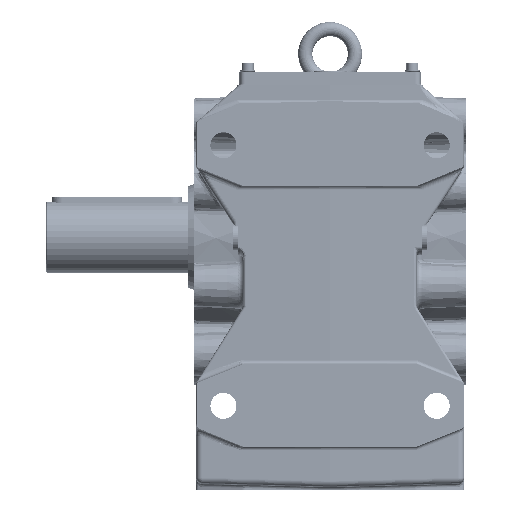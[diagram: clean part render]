
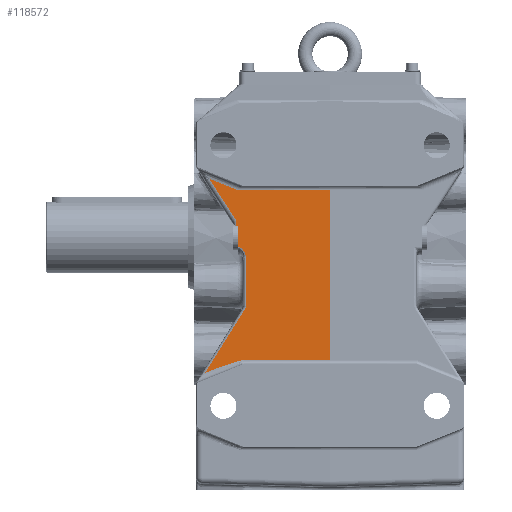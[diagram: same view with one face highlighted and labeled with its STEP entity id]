
A CAD part, left-side view. The second image highlights one B-rep face of the part: STEP entity #118572.
In plain terms, the highlighted planar face has unit normal (-1, 0.026, 0).
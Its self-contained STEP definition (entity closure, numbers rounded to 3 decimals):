
#62508=CARTESIAN_POINT('',(-129.912,0.,40.));
#62509=VERTEX_POINT('',#62508);
#62625=CARTESIAN_POINT('',(-127.847,78.832,40.));
#62626=VERTEX_POINT('',#62625);
#62644=CARTESIAN_POINT('',(-127.847,78.832,40.));
#62645=DIRECTION('',(-0.026,-1.,0.));
#62646=VECTOR('',#62645,78.859);
#62647=LINE('',#62644,#62646);
#62648=EDGE_CURVE('',#62626,#62509,#62647,.T.);
#65176=CARTESIAN_POINT('',(-127.842,79.052,9.208));
#65177=VERTEX_POINT('',#65176);
#65191=CARTESIAN_POINT('',(-127.842,79.052,13.908));
#65192=VERTEX_POINT('',#65191);
#65193=CARTESIAN_POINT('',(-127.842,79.052,13.908));
#65194=DIRECTION('',(0.0,0.0,-1.0));
#65195=VECTOR('',#65194,4.701);
#65196=LINE('',#65193,#65195);
#65197=EDGE_CURVE('',#65192,#65177,#65196,.T.);
#65240=CARTESIAN_POINT('',(-127.149,105.483,-114.66));
#65241=VERTEX_POINT('',#65240);
#65266=CARTESIAN_POINT('',(-128.035,71.66,-60.533));
#65267=VERTEX_POINT('',#65266);
#65268=CARTESIAN_POINT('',(-127.149,105.483,-114.66));
#65269=DIRECTION('',(-0.014,-0.53,0.848));
#65270=VECTOR('',#65269,63.832);
#65271=LINE('',#65268,#65270);
#65272=EDGE_CURVE('',#65241,#65267,#65271,.T.);
#65307=CARTESIAN_POINT('',(-128.051,71.052,-58.413));
#65308=VERTEX_POINT('',#65307);
#65309=CARTESIAN_POINT('',(-127.946,75.052,-58.413));
#65310=DIRECTION('',(-1.,0.026,0.));
#65311=DIRECTION('',(-0.026,-1.,0.));
#65312=AXIS2_PLACEMENT_3D('',#65309,#65310,#65311);
#65313=ELLIPSE('',#65312,4.001,4.0);
#65314=EDGE_CURVE('',#65267,#65308,#65313,.T.);
#65333=CARTESIAN_POINT('',(-128.051,71.052,-17.291));
#65334=VERTEX_POINT('',#65333);
#65335=CARTESIAN_POINT('',(-128.051,71.052,-58.413));
#65336=DIRECTION('',(0.0,0.0,1.0));
#65337=VECTOR('',#65336,41.123);
#65338=LINE('',#65335,#65337);
#65339=EDGE_CURVE('',#65308,#65334,#65338,.T.);
#65916=CARTESIAN_POINT('',(-127.24,102.02,49.275));
#65917=VERTEX_POINT('',#65916);
#65925=CARTESIAN_POINT('',(-127.24,102.02,49.275));
#65926=DIRECTION('',(-0.024,-0.928,-0.371));
#65927=VECTOR('',#65926,24.981);
#65928=LINE('',#65925,#65927);
#65929=EDGE_CURVE('',#65917,#62626,#65928,.T.);
#66061=CARTESIAN_POINT('',(-127.842,79.052,13.908));
#66062=DIRECTION('',(0.014,0.545,0.839));
#66063=VECTOR('',#66062,42.174);
#66064=LINE('',#66061,#66063);
#66065=EDGE_CURVE('',#65192,#65917,#66064,.T.);
#75508=CARTESIAN_POINT('',(-127.454,93.832,-110.));
#75509=VERTEX_POINT('',#75508);
#75519=CARTESIAN_POINT('',(-127.454,93.832,-110.));
#75520=DIRECTION('',(0.024,0.928,-0.371));
#75521=VECTOR('',#75520,12.552);
#75522=LINE('',#75519,#75521);
#75523=EDGE_CURVE('',#75509,#65241,#75522,.T.);
#76314=CARTESIAN_POINT('',(-128.001,72.976,-104.));
#76315=VERTEX_POINT('',#76314);
#76316=CARTESIAN_POINT('',(-128.001,72.976,-104.));
#76317=CARTESIAN_POINT('',(-127.982,73.7,-104.));
#76318=CARTESIAN_POINT('',(-127.944,75.145,-104.177));
#76319=CARTESIAN_POINT('',(-127.888,77.259,-104.671));
#76320=CARTESIAN_POINT('',(-127.834,79.352,-105.254));
#76321=CARTESIAN_POINT('',(-127.779,81.43,-105.884));
#76322=CARTESIAN_POINT('',(-127.725,83.499,-106.541));
#76323=CARTESIAN_POINT('',(-127.653,86.251,-107.44));
#76324=CARTESIAN_POINT('',(-127.563,89.682,-108.59));
#76325=CARTESIAN_POINT('',(-127.491,92.423,-109.521));
#76326=CARTESIAN_POINT('',(-127.455,93.807,-109.991));
#76327=CARTESIAN_POINT('',(-127.455,93.819,-109.996));
#76328=CARTESIAN_POINT('',(-127.454,93.832,-110.));
#76329=B_SPLINE_CURVE_WITH_KNOTS('',3,(#76316,#76317,#76318,#76319,#76320,#76321,#76322,#76323,#76324,#76325,#76326,#76327,#76328),.UNSPECIFIED.,.F.,.U.,(4,1,1,1,1,1,1,1,2,4),(-2.172,-1.955,-1.737,-1.52,-1.303,-1.086,-0.869,-0.434,0.0,0.004),.UNSPECIFIED.);
#76330=EDGE_CURVE('',#76315,#75509,#76329,.T.);
#76359=CARTESIAN_POINT('',(-129.912,0.,-104.));
#76360=VERTEX_POINT('',#76359);
#76385=CARTESIAN_POINT('',(-129.912,0.,-104.));
#76386=DIRECTION('',(0.026,1.,0.));
#76387=VECTOR('',#76386,73.001);
#76388=LINE('',#76385,#76387);
#76389=EDGE_CURVE('',#76360,#76315,#76388,.T.);
#116333=CARTESIAN_POINT('',(-129.912,0.,40.));
#116334=DIRECTION('',(0.0,0.0,-1.0));
#116335=VECTOR('',#116334,144.0);
#116336=LINE('',#116333,#116335);
#116337=EDGE_CURVE('',#62509,#76360,#116336,.T.);
#118508=CARTESIAN_POINT('',(-127.869,78.,-8.461));
#118509=VERTEX_POINT('',#118508);
#118525=CARTESIAN_POINT('',(-128.051,71.052,-17.291));
#118526=CARTESIAN_POINT('',(-128.051,71.052,-15.528));
#118527=CARTESIAN_POINT('',(-128.029,71.882,-12.595));
#118528=CARTESIAN_POINT('',(-127.968,74.203,-9.831));
#118529=CARTESIAN_POINT('',(-127.915,76.261,-8.656));
#118530=CARTESIAN_POINT('',(-127.884,77.43,-8.451));
#118531=CARTESIAN_POINT('',(-127.869,78.,-8.461));
#118532=B_SPLINE_CURVE_WITH_KNOTS('',3,(#118525,#118526,#118527,#118528,#118529,#118530,#118531),.UNSPECIFIED.,.F.,.U.,(4,1,1,1,4),(0.0,0.529,0.881,1.058,1.229),.UNSPECIFIED.);
#118533=EDGE_CURVE('',#65334,#118509,#118532,.T.);
#118538=CARTESIAN_POINT('',(-129.911,0.025,-208.));
#118539=DIRECTION('',(-1.,0.026,0.));
#118540=DIRECTION('',(0.0,0.0,1.0));
#118541=AXIS2_PLACEMENT_3D('',#118538,#118539,#118540);
#118542=PLANE('',#118541);
#118543=CARTESIAN_POINT('',(-127.869,78.,9.172));
#118544=VERTEX_POINT('',#118543);
#118545=CARTESIAN_POINT('',(-116.,531.262,0.));
#118546=DIRECTION('',(1.,-0.026,0.));
#118547=DIRECTION('',(-0.026,-1.,0.));
#118548=AXIS2_PLACEMENT_3D('',#118545,#118546,#118547);
#118549=ELLIPSE('',#118548,573.023,15.);
#118550=EDGE_CURVE('',#65177,#118544,#118549,.T.);
#118551=ORIENTED_EDGE('',*,*,#118550,.T.);
#118552=CARTESIAN_POINT('',(-127.869,78.,9.172));
#118553=DIRECTION('',(0.0,0.0,-1.0));
#118554=VECTOR('',#118553,17.633);
#118555=LINE('',#118552,#118554);
#118556=EDGE_CURVE('',#118544,#118509,#118555,.T.);
#118557=ORIENTED_EDGE('',*,*,#118556,.T.);
#118558=ORIENTED_EDGE('',*,*,#118533,.F.);
#118559=ORIENTED_EDGE('',*,*,#65339,.F.);
#118560=ORIENTED_EDGE('',*,*,#65314,.F.);
#118561=ORIENTED_EDGE('',*,*,#65272,.F.);
#118562=ORIENTED_EDGE('',*,*,#75523,.F.);
#118563=ORIENTED_EDGE('',*,*,#76330,.F.);
#118564=ORIENTED_EDGE('',*,*,#76389,.F.);
#118565=ORIENTED_EDGE('',*,*,#116337,.F.);
#118566=ORIENTED_EDGE('',*,*,#62648,.F.);
#118567=ORIENTED_EDGE('',*,*,#65929,.F.);
#118568=ORIENTED_EDGE('',*,*,#66065,.F.);
#118569=ORIENTED_EDGE('',*,*,#65197,.T.);
#118570=EDGE_LOOP('',(#118551,#118557,#118558,#118559,#118560,#118561,#118562,#118563,#118564,#118565,#118566,#118567,#118568,#118569));
#118571=FACE_OUTER_BOUND('',#118570,.T.);
#118572=ADVANCED_FACE('',(#118571),#118542,.T.);
